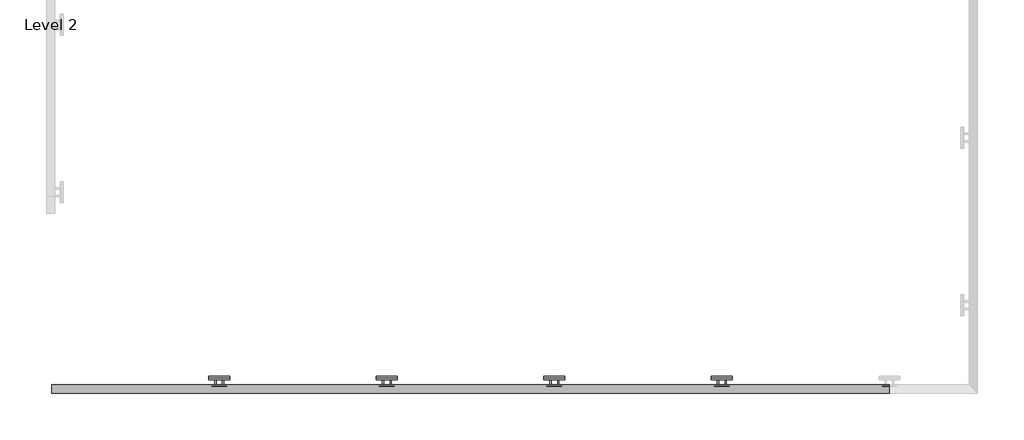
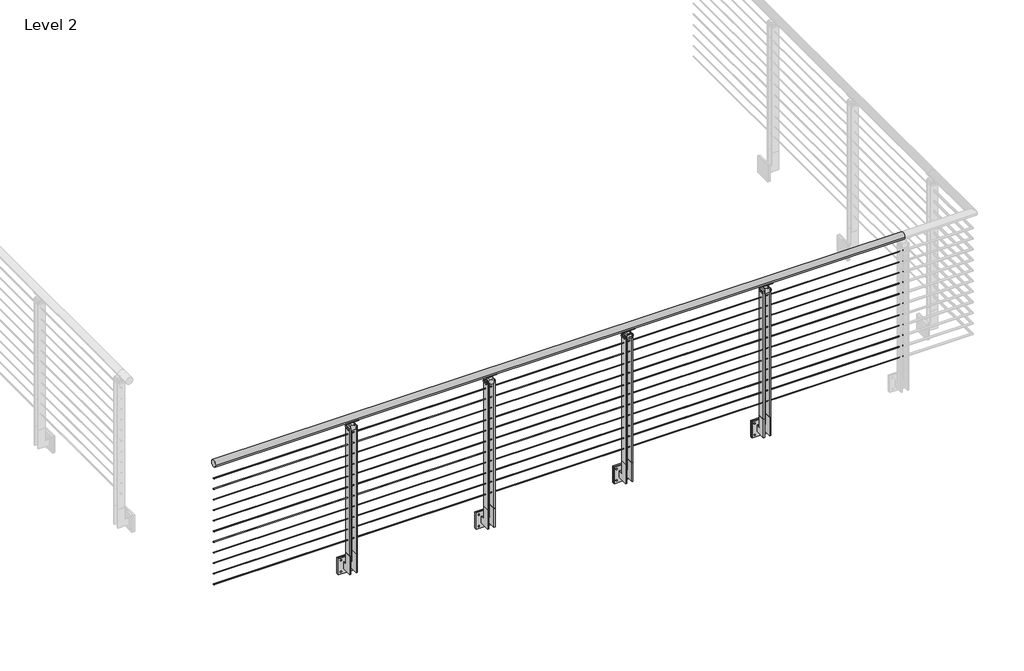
# One storey, part 6 of 31: 1 railing.
"""IFC4 building model written with IfcOpenShell, lengths in millimetres."""

from ifc_helpers import new_model, si_unit, point, frame, frame_2d, origin, place, context, project, spatial, polyline, circle_curve, trimmed, segment, composite_curve, outline, extrude, element, save
from ifc_brep_helpers import plane_surface, cylinder_surface, revolved_surface, advanced_brep

model = new_model("IFC4")

# Units and contexts
model_context = context("Model", 3, world=origin())
ifc_project = project(units=[si_unit("LENGTHUNIT", "METRE", prefix="MILLI")], contexts=[model_context])

# Site, building, storey
site = spatial("IfcSite", under=ifc_project)
building = spatial("IfcBuilding", under=site)
storey = spatial("IfcBuildingStorey", under=building, Name="Level 2", Elevation=3048.0)

# Railing
placement = place(None, origin())
element("IfcRailing", 1, ObjectType="VIVA-BLADE-Cable-Fascia Mount-Straight", at=placement, inside=storey, context=model_context, shape_type="SolidModel", body=[
    extrude(outline(composite_curve([segment(trimmed(circle_curve(frame_2d((-52320.6428223, 4102.1)), 25.4), [point((-52346.0428223, 4102.1))], [point((-52295.2428223, 4102.1))], False, "CARTESIAN"), True, "CONTINUOUS"), segment(trimmed(circle_curve(frame_2d((-52320.6428223, 4102.1)), 25.4), [point((-52295.2428223, 4102.1))], [point((-52346.0428223, 4102.1))], False, "CARTESIAN"), True, "CONTINUOUS")], self_intersect=False)), frame((-9233.9664794, 0.0, 0.0), z_axis=(1.0, 0.0, 0.0), x_axis=(0.0, 1.0, 0.0)), (0.0, 0.0, 1.0), 5080.0),
    extrude(outline(composite_curve([segment(trimmed(circle_curve(frame_2d((-52320.6428223, 3985.4124)), 2.3876), [point((-52318.2552223, 3985.4124))], [point((-52323.0304223, 3985.4124))], False, "CARTESIAN"), True, "CONTINUOUS"), segment(trimmed(circle_curve(frame_2d((-52320.6428223, 3985.4124)), 2.3876), [point((-52323.0304223, 3985.4124))], [point((-52318.2552223, 3985.4124))], False, "CARTESIAN"), True, "CONTINUOUS")], self_intersect=False)), frame((-9233.9664794, 0.0, 0.0), z_axis=(1.0, 0.0, 0.0), x_axis=(0.0, 1.0, 0.0)), (0.0, 0.0, 1.0), 5080.0),
    extrude(outline(composite_curve([segment(trimmed(circle_curve(frame_2d((-52320.6428223, 3902.8624)), 2.3876), [point((-52318.2552223, 3902.8624))], [point((-52323.0304223, 3902.8624))], False, "CARTESIAN"), True, "CONTINUOUS"), segment(trimmed(circle_curve(frame_2d((-52320.6428223, 3902.8624)), 2.3876), [point((-52323.0304223, 3902.8624))], [point((-52318.2552223, 3902.8624))], False, "CARTESIAN"), True, "CONTINUOUS")], self_intersect=False)), frame((-9233.9664794, 0.0, 0.0), z_axis=(1.0, 0.0, 0.0), x_axis=(0.0, 1.0, 0.0)), (0.0, 0.0, 1.0), 5080.0),
    extrude(outline(composite_curve([segment(trimmed(circle_curve(frame_2d((-52320.6428223, 3820.3124)), 2.3876), [point((-52318.2552223, 3820.3124))], [point((-52323.0304223, 3820.3124))], False, "CARTESIAN"), True, "CONTINUOUS"), segment(trimmed(circle_curve(frame_2d((-52320.6428223, 3820.3124)), 2.3876), [point((-52323.0304223, 3820.3124))], [point((-52318.2552223, 3820.3124))], False, "CARTESIAN"), True, "CONTINUOUS")], self_intersect=False)), frame((-9233.9664794, 0.0, 0.0), z_axis=(1.0, 0.0, 0.0), x_axis=(0.0, 1.0, 0.0)), (0.0, 0.0, 1.0), 5080.0),
    extrude(outline(composite_curve([segment(trimmed(circle_curve(frame_2d((-52320.6428223, 3737.7624)), 2.3876), [point((-52318.2552223, 3737.7624))], [point((-52323.0304223, 3737.7624))], False, "CARTESIAN"), True, "CONTINUOUS"), segment(trimmed(circle_curve(frame_2d((-52320.6428223, 3737.7624)), 2.3876), [point((-52323.0304223, 3737.7624))], [point((-52318.2552223, 3737.7624))], False, "CARTESIAN"), True, "CONTINUOUS")], self_intersect=False)), frame((-9233.9664794, 0.0, 0.0), z_axis=(1.0, 0.0, 0.0), x_axis=(0.0, 1.0, 0.0)), (0.0, 0.0, 1.0), 5080.0),
    extrude(outline(composite_curve([segment(trimmed(circle_curve(frame_2d((-52320.6428223, 3655.2124)), 2.3876), [point((-52318.2552223, 3655.2124))], [point((-52323.0304223, 3655.2124))], False, "CARTESIAN"), True, "CONTINUOUS"), segment(trimmed(circle_curve(frame_2d((-52320.6428223, 3655.2124)), 2.3876), [point((-52323.0304223, 3655.2124))], [point((-52318.2552223, 3655.2124))], False, "CARTESIAN"), True, "CONTINUOUS")], self_intersect=False)), frame((-9233.9664794, 0.0, 0.0), z_axis=(1.0, 0.0, 0.0), x_axis=(0.0, 1.0, 0.0)), (0.0, 0.0, 1.0), 5080.0),
    extrude(outline(composite_curve([segment(trimmed(circle_curve(frame_2d((-52320.6428223, 3572.6624)), 2.3876), [point((-52318.2552223, 3572.6624))], [point((-52323.0304223, 3572.6624))], False, "CARTESIAN"), True, "CONTINUOUS"), segment(trimmed(circle_curve(frame_2d((-52320.6428223, 3572.6624)), 2.3876), [point((-52323.0304223, 3572.6624))], [point((-52318.2552223, 3572.6624))], False, "CARTESIAN"), True, "CONTINUOUS")], self_intersect=False)), frame((-9233.9664794, 0.0, 0.0), z_axis=(1.0, 0.0, 0.0), x_axis=(0.0, 1.0, 0.0)), (0.0, 0.0, 1.0), 5080.0),
    extrude(outline(composite_curve([segment(trimmed(circle_curve(frame_2d((-52320.6428223, 3490.1124)), 2.3876), [point((-52318.2552223, 3490.1124))], [point((-52323.0304223, 3490.1124))], False, "CARTESIAN"), True, "CONTINUOUS"), segment(trimmed(circle_curve(frame_2d((-52320.6428223, 3490.1124)), 2.3876), [point((-52323.0304223, 3490.1124))], [point((-52318.2552223, 3490.1124))], False, "CARTESIAN"), True, "CONTINUOUS")], self_intersect=False)), frame((-9233.9664794, 0.0, 0.0), z_axis=(1.0, 0.0, 0.0), x_axis=(0.0, 1.0, 0.0)), (0.0, 0.0, 1.0), 5080.0),
    extrude(outline(composite_curve([segment(trimmed(circle_curve(frame_2d((-52320.6428223, 3407.5624)), 2.3876), [point((-52318.2552223, 3407.5624))], [point((-52323.0304223, 3407.5624))], False, "CARTESIAN"), True, "CONTINUOUS"), segment(trimmed(circle_curve(frame_2d((-52320.6428223, 3407.5624)), 2.3876), [point((-52323.0304223, 3407.5624))], [point((-52318.2552223, 3407.5624))], False, "CARTESIAN"), True, "CONTINUOUS")], self_intersect=False)), frame((-9233.9664794, 0.0, 0.0), z_axis=(1.0, 0.0, 0.0), x_axis=(0.0, 1.0, 0.0)), (0.0, 0.0, 1.0), 5080.0),
    extrude(outline(composite_curve([segment(trimmed(circle_curve(frame_2d((-52320.6428223, 3325.0124)), 2.3876), [point((-52318.2552223, 3325.0124))], [point((-52323.0304223, 3325.0124))], False, "CARTESIAN"), True, "CONTINUOUS"), segment(trimmed(circle_curve(frame_2d((-52320.6428223, 3325.0124)), 2.3876), [point((-52323.0304223, 3325.0124))], [point((-52318.2552223, 3325.0124))], False, "CARTESIAN"), True, "CONTINUOUS")], self_intersect=False)), frame((-9233.9664794, 0.0, 0.0), z_axis=(1.0, 0.0, 0.0), x_axis=(0.0, 1.0, 0.0)), (0.0, 0.0, 1.0), 5080.0),
    extrude(outline(composite_curve([segment(trimmed(circle_curve(frame_2d((-52320.6428223, 3242.4624)), 2.3876), [point((-52318.2552223, 3242.4624))], [point((-52323.0304223, 3242.4624))], False, "CARTESIAN"), True, "CONTINUOUS"), segment(trimmed(circle_curve(frame_2d((-52320.6428223, 3242.4624)), 2.3876), [point((-52323.0304223, 3242.4624))], [point((-52318.2552223, 3242.4624))], False, "CARTESIAN"), True, "CONTINUOUS")], self_intersect=False)), frame((-9233.9664794, 0.0, 0.0), z_axis=(1.0, 0.0, 0.0), x_axis=(0.0, 1.0, 0.0)), (0.0, 0.0, 1.0), 5080.0),
    extrude(outline(composite_curve([segment(trimmed(circle_curve(frame_2d((-52320.6428223, 3159.9124)), 2.3876), [point((-52318.2552223, 3159.9124))], [point((-52323.0304223, 3159.9124))], False, "CARTESIAN"), True, "CONTINUOUS"), segment(trimmed(circle_curve(frame_2d((-52320.6428223, 3159.9124)), 2.3876), [point((-52323.0304223, 3159.9124))], [point((-52318.2552223, 3159.9124))], False, "CARTESIAN"), True, "CONTINUOUS")], self_intersect=False)), frame((-9233.9664794, 0.0, 0.0), z_axis=(1.0, 0.0, 0.0), x_axis=(0.0, 1.0, 0.0)), (0.0, 0.0, 1.0), 5080.0),
    extrude(outline(polyline([(-52346.0453502, 2901.95), (-52346.0453502, 3048.0), (-52295.2453502, 3048.0), (-52295.2453502, 2952.75), (-52263.4926165, 2952.75), (-52263.4926165, 2901.95), (-52346.0453502, 2901.95)])), frame((-5197.0413151, 0.0, 0.0), z_axis=(1.0, 0.0, 0.0), x_axis=(0.0, 1.0, 0.0)), (0.0, 0.0, 1.0), 8.0248357),
    extrude(outline(polyline([(-52295.2453502, 3048.0), (-52295.2453502, 2952.75), (-52263.4926165, 2952.75), (-52263.4926165, 2901.95), (-52346.0453502, 2901.95), (-52346.0453502, 3048.0), (-52295.2453502, 3048.0)])), frame((-5150.9165174, 0.0, 0.0), z_axis=(1.0, 0.0, 0.0), x_axis=(0.0, 1.0, 0.0)), (0.0, 0.0, 1.0), 8.001),
    advanced_brep(
    [(-5124.7290794, -52307.8826986, 4080.0967655), (-5124.7290794, -52332.7547632, 4079.9535285), (-5124.7290794, -52335.5636935, 4075.1267745), (-5124.7290794, -52304.0468012, 4075.707533), (-5215.2038794, -52307.8826986, 4080.0967655), (-5215.2038794, -52304.0468012, 4075.707533), (-5215.2038794, -52335.6774869, 4075.1893964), (-5215.2038794, -52332.8417353, 4080.0018447)],
    [
        (0, 1, circle_curve(frame((-5124.7290794, -52320.4465015, 4102.2115898), z_axis=(-1.0, 0.0, 0.0), x_axis=(0.0, 1.0, 0.0)), 25.4345159)),
        (1, 2, circle_curve(frame((-5124.7290794, -52334.0863884, 4077.4993599), z_axis=(1.0, 0.0, 0.0), x_axis=(0.0, 1.0, 0.0)), 2.7949225)),
        (2, 3, circle_curve(frame((-5124.7290794, -52320.3130385, 4102.9742164), z_axis=(1.0, 0.0, 0.0), x_axis=(0.0, 1.0, 0.0)), 31.75)),
        (3, 0, circle_curve(frame((-5124.7290794, -52306.335141, 4077.5784521), z_axis=(1.0, 0.0, 0.0), x_axis=(0.0, 1.0, 0.0)), 2.9558141)),
        (4, 5, circle_curve(frame((-5215.2038794, -52306.335141, 4077.5784521), z_axis=(-1.0, 0.0, 0.0), x_axis=(0.0, 1.0, 0.0)), 2.9558141)),
        (5, 6, circle_curve(frame((-5215.2038794, -52320.3130385, 4102.9742164), z_axis=(-1.0, 0.0, 0.0), x_axis=(0.0, 1.0, 0.0)), 31.75)),
        (6, 7, circle_curve(frame((-5215.2038794, -52334.0863884, 4077.4993599), z_axis=(-1.0, 0.0, 0.0), x_axis=(0.0, 1.0, 0.0)), 2.7949225)),
        (7, 4, circle_curve(frame((-5215.2038794, -52320.4465015, 4102.2115898), z_axis=(1.0, 0.0, 0.0), x_axis=(0.0, 1.0, 0.0)), 25.4345159)),
        (0, 4),
        (7, 1),
        (6, 2),
        (5, 3),
    ],
    [
        plane_surface(frame((-5124.7290794, -52295.0119857, 4102.2115898), z_axis=(1.0, 0.0, 0.0), x_axis=(0.0, 0.0, -1.0))),
        plane_surface(frame((-5215.2038794, -52295.0119857, 4102.2115898), z_axis=(-1.0, 0.0, 0.0), x_axis=(0.0, 0.0, 1.0))),
        revolved_surface(polyline([(-5215.2038794, -52295.0119856, 4102.2115898), (-5124.7290794, -52295.0119856, 4102.2115898)]), (-5215.2038794, -52320.4465015, 4102.2115898), (-1.0, 0.0, 0.0)),
        cylinder_surface(frame((-5215.2038794, -52334.0863884, 4077.4993599), z_axis=(1.0, 0.0, 0.0), x_axis=(0.0, 1.0, 0.0)), 2.7949225),
        cylinder_surface(frame((-5215.2038794, -52320.3130385, 4102.9742164), z_axis=(1.0, 0.0, 0.0), x_axis=(0.0, 1.0, 0.0)), 31.75),
        cylinder_surface(frame((-5215.2038794, -52306.335141, 4077.5784521), z_axis=(1.0, 0.0, 0.0), x_axis=(0.0, 1.0, 0.0)), 2.9558141),
    ],
    [
        (0, [[1, 2, 3, 4]]),
        (1, [[5, 6, 7, 8]]),
        (2, [[-1, 9, -8, 10]]),
        (3, [[-2, -10, -7, 11]]),
        (4, [[-3, -11, -6, 12]]),
        (5, [[-4, -12, -5, -9]]),
    ],
),
    extrude(outline(polyline([(-5106.4784162, -52244.4426165), (-5106.4784162, -52253.9676165), (-5233.4784162, -52253.9676165), (-5233.4784162, -52244.4426165), (-5106.4784162, -52244.4426165)])), frame((0.0, 0.0, 2863.85), z_axis=(0.0, 0.0, 1.0), x_axis=(1.0, 0.0, 0.0)), (0.0, 0.0, 1.0), 127.0),
    extrude(outline(composite_curve([segment(trimmed(circle_curve(frame_2d((4062.4125, -5142.8985645)), 14.3679149), [point((4062.4125, -5157.2664794))], [point((4076.7804149, -5142.8985645))], True, "CARTESIAN"), True, "CONTINUOUS"), segment(polyline([(4076.7804149, -5142.8985645), (4076.7804149, -5197.0343942)]), True, "CONTINUOUS"), segment(trimmed(circle_curve(frame_2d((4062.4125, -5197.0343942)), 14.3679149), [point((4076.7804149, -5197.0343942))], [point((4062.4125, -5182.6664794))], True, "CARTESIAN"), True, "CONTINUOUS"), segment(polyline([(4062.4125, -5182.6664794), (4062.4125, -5157.2664794)]), True, "CONTINUOUS")], self_intersect=False)), frame((0.0, -52323.1828223, 0.0), z_axis=(0.0, 1.0, 0.0), x_axis=(0.0, 0.0, 1.0)), (0.0, 0.0, 1.0), 5.08),
    extrude(outline(polyline([(-5197.0413151, -52295.2430256), (-5189.0164794, -52295.2430256), (-5189.0164794, -52346.0453502), (-5197.0413151, -52346.0453502), (-5197.0413151, -52295.2430256)])), frame((0.0, 0.0, 3048.0), z_axis=(0.0, 0.0, 1.0), x_axis=(1.0, 0.0, 0.0)), (0.0, 0.0, 1.0), 996.95),
    extrude(outline(polyline([(2863.85, -5233.4784162), (2863.85, -5106.4784162), (2990.85, -5106.4784162), (2990.85, -5233.4784162), (2863.85, -5233.4784162)]), holes=[composite_curve([segment(trimmed(circle_curve(frame_2d((2971.8, -5214.4284162)), 4.7068371), [point((2971.8, -5209.7215791))], [point((2971.8, -5219.1352533))], True, "CARTESIAN"), True, "CONTINUOUS"), segment(trimmed(circle_curve(frame_2d((2971.8, -5214.4284162)), 4.7068371), [point((2971.8, -5219.1352533))], [point((2971.8, -5209.7215791))], True, "CARTESIAN"), True, "CONTINUOUS")], self_intersect=False), composite_curve([segment(trimmed(circle_curve(frame_2d((2971.8, -5125.5284162)), 4.7068371), [point((2971.8, -5120.8215791))], [point((2971.8, -5130.2352533))], True, "CARTESIAN"), True, "CONTINUOUS"), segment(trimmed(circle_curve(frame_2d((2971.8, -5125.5284162)), 4.7068371), [point((2971.8, -5130.2352533))], [point((2971.8, -5120.8215791))], True, "CARTESIAN"), True, "CONTINUOUS")], self_intersect=False), composite_curve([segment(trimmed(circle_curve(frame_2d((2882.9, -5125.5284162)), 4.7068371), [point((2882.9, -5120.8215791))], [point((2882.9, -5130.2352533))], True, "CARTESIAN"), True, "CONTINUOUS"), segment(trimmed(circle_curve(frame_2d((2882.9, -5125.5284162)), 4.7068371), [point((2882.9, -5130.2352533))], [point((2882.9, -5120.8215791))], True, "CARTESIAN"), True, "CONTINUOUS")], self_intersect=False), composite_curve([segment(trimmed(circle_curve(frame_2d((2882.9, -5214.4284162)), 4.7068371), [point((2882.9, -5209.7215791))], [point((2882.9, -5219.1352533))], True, "CARTESIAN"), True, "CONTINUOUS"), segment(trimmed(circle_curve(frame_2d((2882.9, -5214.4284162)), 4.7068371), [point((2882.9, -5219.1352533))], [point((2882.9, -5209.7215791))], True, "CARTESIAN"), True, "CONTINUOUS")], self_intersect=False)]), frame((0.0, -52263.4926165, 0.0), z_axis=(0.0, 1.0, 0.0), x_axis=(0.0, 0.0, 1.0)), (0.0, 0.0, 1.0), 9.525),
    extrude(outline(composite_curve([segment(trimmed(circle_curve(frame_2d((-52333.3452992, 4034.0416929)), 8.89), [point((-52342.2352992, 4034.0416929))], [point((-52324.4552992, 4034.0416929))], False, "CARTESIAN"), True, "CONTINUOUS"), segment(trimmed(circle_curve(frame_2d((-52333.3452992, 4034.0416929)), 8.89), [point((-52324.4552992, 4034.0416929))], [point((-52342.2352992, 4034.0416929))], False, "CARTESIAN"), True, "CONTINUOUS")], self_intersect=False)), frame((-5201.7164794, 0.0, 0.0), z_axis=(1.0, 0.0, 0.0), x_axis=(0.0, 1.0, 0.0)), (0.0, 0.0, 1.0), 63.4880631),
    extrude(outline(composite_curve([segment(trimmed(circle_curve(frame_2d((-52307.9454012, 4034.0416929)), 8.89), [point((-52316.8354012, 4034.0416929))], [point((-52299.0554012, 4034.0416929))], False, "CARTESIAN"), True, "CONTINUOUS"), segment(trimmed(circle_curve(frame_2d((-52307.9454012, 4034.0416929)), 8.89), [point((-52299.0554012, 4034.0416929))], [point((-52316.8354012, 4034.0416929))], False, "CARTESIAN"), True, "CONTINUOUS")], self_intersect=False)), frame((-5201.7164794, 0.0, 0.0), z_axis=(1.0, 0.0, 0.0), x_axis=(0.0, 1.0, 0.0)), (0.0, 0.0, 1.0), 63.4880631),
    extrude(outline(polyline([(4022.7123, -5189.0164794), (4022.7123, -5150.9164794), (4056.0625, -5150.9164794), (4062.4125, -5157.2664794), (4062.4125, -5182.6664794), (4056.0625, -5189.0164794), (4022.7123, -5189.0164794)])), frame((0.0, -52346.0453502, 0.0), z_axis=(0.0, 1.0, 0.0), x_axis=(0.0, 0.0, 1.0)), (0.0, 0.0, 1.0), 50.8025279),
    extrude(outline(polyline([(-5150.9165174, -52295.2430256), (-5142.9155174, -52295.2430256), (-5142.9155174, -52346.0453502), (-5150.9165174, -52346.0453502), (-5150.9165174, -52295.2430256)])), frame((0.0, 0.0, 3048.0), z_axis=(0.0, 0.0, 1.0), x_axis=(1.0, 0.0, 0.0)), (0.0, 0.0, 1.0), 996.95),
    extrude(outline(polyline([(-52346.0453502, 2901.95), (-52346.0453502, 3048.0), (-52295.2453502, 3048.0), (-52295.2453502, 2952.75), (-52263.4926165, 2952.75), (-52263.4926165, 2901.95), (-52346.0453502, 2901.95)])), frame((-6213.0413151, 0.0, 0.0), z_axis=(1.0, 0.0, 0.0), x_axis=(0.0, 1.0, 0.0)), (0.0, 0.0, 1.0), 8.0248357),
    extrude(outline(polyline([(-52295.2453502, 3048.0), (-52295.2453502, 2952.75), (-52263.4926165, 2952.75), (-52263.4926165, 2901.95), (-52346.0453502, 2901.95), (-52346.0453502, 3048.0), (-52295.2453502, 3048.0)])), frame((-6166.9165174, 0.0, 0.0), z_axis=(1.0, 0.0, 0.0), x_axis=(0.0, 1.0, 0.0)), (0.0, 0.0, 1.0), 8.001),
    advanced_brep(
    [(-6140.7290794, -52307.8826986, 4080.0967655), (-6140.7290794, -52332.7547632, 4079.9535285), (-6140.7290794, -52335.5636935, 4075.1267745), (-6140.7290794, -52304.0468012, 4075.707533), (-6231.2038794, -52307.8826986, 4080.0967655), (-6231.2038794, -52304.0468012, 4075.707533), (-6231.2038794, -52335.6774869, 4075.1893964), (-6231.2038794, -52332.8417353, 4080.0018447)],
    [
        (0, 1, circle_curve(frame((-6140.7290794, -52320.4465015, 4102.2115898), z_axis=(-1.0, 0.0, 0.0), x_axis=(0.0, 1.0, 0.0)), 25.4345159)),
        (1, 2, circle_curve(frame((-6140.7290794, -52334.0863884, 4077.4993599), z_axis=(1.0, 0.0, 0.0), x_axis=(0.0, 1.0, 0.0)), 2.7949225)),
        (2, 3, circle_curve(frame((-6140.7290794, -52320.3130385, 4102.9742164), z_axis=(1.0, 0.0, 0.0), x_axis=(0.0, 1.0, 0.0)), 31.75)),
        (3, 0, circle_curve(frame((-6140.7290794, -52306.335141, 4077.5784521), z_axis=(1.0, 0.0, 0.0), x_axis=(0.0, 1.0, 0.0)), 2.9558141)),
        (4, 5, circle_curve(frame((-6231.2038794, -52306.335141, 4077.5784521), z_axis=(-1.0, 0.0, 0.0), x_axis=(0.0, 1.0, 0.0)), 2.9558141)),
        (5, 6, circle_curve(frame((-6231.2038794, -52320.3130385, 4102.9742164), z_axis=(-1.0, 0.0, 0.0), x_axis=(0.0, 1.0, 0.0)), 31.75)),
        (6, 7, circle_curve(frame((-6231.2038794, -52334.0863884, 4077.4993599), z_axis=(-1.0, 0.0, 0.0), x_axis=(0.0, 1.0, 0.0)), 2.7949225)),
        (7, 4, circle_curve(frame((-6231.2038794, -52320.4465015, 4102.2115898), z_axis=(1.0, 0.0, 0.0), x_axis=(0.0, 1.0, 0.0)), 25.4345159)),
        (0, 4),
        (7, 1),
        (6, 2),
        (5, 3),
    ],
    [
        plane_surface(frame((-6140.7290794, -52295.0119857, 4102.2115898), z_axis=(1.0, 0.0, 0.0), x_axis=(0.0, 0.0, -1.0))),
        plane_surface(frame((-6231.2038794, -52295.0119857, 4102.2115898), z_axis=(-1.0, 0.0, 0.0), x_axis=(0.0, 0.0, 1.0))),
        revolved_surface(polyline([(-6231.2038794, -52295.0119856, 4102.2115898), (-6140.7290794, -52295.0119856, 4102.2115898)]), (-6231.2038794, -52320.4465015, 4102.2115898), (-1.0, 0.0, 0.0)),
        cylinder_surface(frame((-6231.2038794, -52334.0863884, 4077.4993599), z_axis=(1.0, 0.0, 0.0), x_axis=(0.0, 1.0, 0.0)), 2.7949225),
        cylinder_surface(frame((-6231.2038794, -52320.3130385, 4102.9742164), z_axis=(1.0, 0.0, 0.0), x_axis=(0.0, 1.0, 0.0)), 31.75),
        cylinder_surface(frame((-6231.2038794, -52306.335141, 4077.5784521), z_axis=(1.0, 0.0, 0.0), x_axis=(0.0, 1.0, 0.0)), 2.9558141),
    ],
    [
        (0, [[1, 2, 3, 4]]),
        (1, [[5, 6, 7, 8]]),
        (2, [[-1, 9, -8, 10]]),
        (3, [[-2, -10, -7, 11]]),
        (4, [[-3, -11, -6, 12]]),
        (5, [[-4, -12, -5, -9]]),
    ],
),
    extrude(outline(polyline([(-6122.4784162, -52244.4426165), (-6122.4784162, -52253.9676165), (-6249.4784162, -52253.9676165), (-6249.4784162, -52244.4426165), (-6122.4784162, -52244.4426165)])), frame((0.0, 0.0, 2863.85), z_axis=(0.0, 0.0, 1.0), x_axis=(1.0, 0.0, 0.0)), (0.0, 0.0, 1.0), 127.0),
    extrude(outline(composite_curve([segment(trimmed(circle_curve(frame_2d((4062.4125, -6158.8985645)), 14.3679149), [point((4062.4125, -6173.2664794))], [point((4076.7804149, -6158.8985645))], True, "CARTESIAN"), True, "CONTINUOUS"), segment(polyline([(4076.7804149, -6158.8985645), (4076.7804149, -6213.0343942)]), True, "CONTINUOUS"), segment(trimmed(circle_curve(frame_2d((4062.4125, -6213.0343942)), 14.3679149), [point((4076.7804149, -6213.0343942))], [point((4062.4125, -6198.6664794))], True, "CARTESIAN"), True, "CONTINUOUS"), segment(polyline([(4062.4125, -6198.6664794), (4062.4125, -6173.2664794)]), True, "CONTINUOUS")], self_intersect=False)), frame((0.0, -52323.1828223, 0.0), z_axis=(0.0, 1.0, 0.0), x_axis=(0.0, 0.0, 1.0)), (0.0, 0.0, 1.0), 5.08),
    extrude(outline(polyline([(-6213.0413151, -52295.2430256), (-6205.0164794, -52295.2430256), (-6205.0164794, -52346.0453502), (-6213.0413151, -52346.0453502), (-6213.0413151, -52295.2430256)])), frame((0.0, 0.0, 3048.0), z_axis=(0.0, 0.0, 1.0), x_axis=(1.0, 0.0, 0.0)), (0.0, 0.0, 1.0), 996.95),
    extrude(outline(polyline([(2863.85, -6249.4784162), (2863.85, -6122.4784162), (2990.85, -6122.4784162), (2990.85, -6249.4784162), (2863.85, -6249.4784162)]), holes=[composite_curve([segment(trimmed(circle_curve(frame_2d((2971.8, -6230.4284162)), 4.7068371), [point((2971.8, -6225.7215791))], [point((2971.8, -6235.1352533))], True, "CARTESIAN"), True, "CONTINUOUS"), segment(trimmed(circle_curve(frame_2d((2971.8, -6230.4284162)), 4.7068371), [point((2971.8, -6235.1352533))], [point((2971.8, -6225.7215791))], True, "CARTESIAN"), True, "CONTINUOUS")], self_intersect=False), composite_curve([segment(trimmed(circle_curve(frame_2d((2971.8, -6141.5284162)), 4.7068371), [point((2971.8, -6136.8215791))], [point((2971.8, -6146.2352533))], True, "CARTESIAN"), True, "CONTINUOUS"), segment(trimmed(circle_curve(frame_2d((2971.8, -6141.5284162)), 4.7068371), [point((2971.8, -6146.2352533))], [point((2971.8, -6136.8215791))], True, "CARTESIAN"), True, "CONTINUOUS")], self_intersect=False), composite_curve([segment(trimmed(circle_curve(frame_2d((2882.9, -6141.5284162)), 4.7068371), [point((2882.9, -6136.8215791))], [point((2882.9, -6146.2352533))], True, "CARTESIAN"), True, "CONTINUOUS"), segment(trimmed(circle_curve(frame_2d((2882.9, -6141.5284162)), 4.7068371), [point((2882.9, -6146.2352533))], [point((2882.9, -6136.8215791))], True, "CARTESIAN"), True, "CONTINUOUS")], self_intersect=False), composite_curve([segment(trimmed(circle_curve(frame_2d((2882.9, -6230.4284162)), 4.7068371), [point((2882.9, -6225.7215791))], [point((2882.9, -6235.1352533))], True, "CARTESIAN"), True, "CONTINUOUS"), segment(trimmed(circle_curve(frame_2d((2882.9, -6230.4284162)), 4.7068371), [point((2882.9, -6235.1352533))], [point((2882.9, -6225.7215791))], True, "CARTESIAN"), True, "CONTINUOUS")], self_intersect=False)]), frame((0.0, -52263.4926165, 0.0), z_axis=(0.0, 1.0, 0.0), x_axis=(0.0, 0.0, 1.0)), (0.0, 0.0, 1.0), 9.525),
    extrude(outline(composite_curve([segment(trimmed(circle_curve(frame_2d((-52333.3452992, 4034.0416929)), 8.89), [point((-52342.2352992, 4034.0416929))], [point((-52324.4552992, 4034.0416929))], False, "CARTESIAN"), True, "CONTINUOUS"), segment(trimmed(circle_curve(frame_2d((-52333.3452992, 4034.0416929)), 8.89), [point((-52324.4552992, 4034.0416929))], [point((-52342.2352992, 4034.0416929))], False, "CARTESIAN"), True, "CONTINUOUS")], self_intersect=False)), frame((-6217.7164794, 0.0, 0.0), z_axis=(1.0, 0.0, 0.0), x_axis=(0.0, 1.0, 0.0)), (0.0, 0.0, 1.0), 63.4880631),
    extrude(outline(composite_curve([segment(trimmed(circle_curve(frame_2d((-52307.9454012, 4034.0416929)), 8.89), [point((-52316.8354012, 4034.0416929))], [point((-52299.0554012, 4034.0416929))], False, "CARTESIAN"), True, "CONTINUOUS"), segment(trimmed(circle_curve(frame_2d((-52307.9454012, 4034.0416929)), 8.89), [point((-52299.0554012, 4034.0416929))], [point((-52316.8354012, 4034.0416929))], False, "CARTESIAN"), True, "CONTINUOUS")], self_intersect=False)), frame((-6217.7164794, 0.0, 0.0), z_axis=(1.0, 0.0, 0.0), x_axis=(0.0, 1.0, 0.0)), (0.0, 0.0, 1.0), 63.4880631),
    extrude(outline(polyline([(4022.7123, -6205.0164794), (4022.7123, -6166.9164794), (4056.0625, -6166.9164794), (4062.4125, -6173.2664794), (4062.4125, -6198.6664794), (4056.0625, -6205.0164794), (4022.7123, -6205.0164794)])), frame((0.0, -52346.0453502, 0.0), z_axis=(0.0, 1.0, 0.0), x_axis=(0.0, 0.0, 1.0)), (0.0, 0.0, 1.0), 50.8025279),
    extrude(outline(polyline([(-6166.9165174, -52295.2430256), (-6158.9155174, -52295.2430256), (-6158.9155174, -52346.0453502), (-6166.9165174, -52346.0453502), (-6166.9165174, -52295.2430256)])), frame((0.0, 0.0, 3048.0), z_axis=(0.0, 0.0, 1.0), x_axis=(1.0, 0.0, 0.0)), (0.0, 0.0, 1.0), 996.95),
    extrude(outline(polyline([(-52346.0453502, 2901.95), (-52346.0453502, 3048.0), (-52295.2453502, 3048.0), (-52295.2453502, 2952.75), (-52263.4926165, 2952.75), (-52263.4926165, 2901.95), (-52346.0453502, 2901.95)])), frame((-7229.0413151, 0.0, 0.0), z_axis=(1.0, 0.0, 0.0), x_axis=(0.0, 1.0, 0.0)), (0.0, 0.0, 1.0), 8.0248357),
    extrude(outline(polyline([(-52295.2453502, 3048.0), (-52295.2453502, 2952.75), (-52263.4926165, 2952.75), (-52263.4926165, 2901.95), (-52346.0453502, 2901.95), (-52346.0453502, 3048.0), (-52295.2453502, 3048.0)])), frame((-7182.9165174, 0.0, 0.0), z_axis=(1.0, 0.0, 0.0), x_axis=(0.0, 1.0, 0.0)), (0.0, 0.0, 1.0), 8.001),
    advanced_brep(
    [(-7156.7290794, -52307.8826986, 4080.0967655), (-7156.7290794, -52332.7547632, 4079.9535285), (-7156.7290794, -52335.5636935, 4075.1267745), (-7156.7290794, -52304.0468012, 4075.707533), (-7247.2038794, -52307.8826986, 4080.0967655), (-7247.2038794, -52304.0468012, 4075.707533), (-7247.2038794, -52335.6774869, 4075.1893964), (-7247.2038794, -52332.8417353, 4080.0018447)],
    [
        (0, 1, circle_curve(frame((-7156.7290794, -52320.4465015, 4102.2115898), z_axis=(-1.0, 0.0, 0.0), x_axis=(0.0, 1.0, 0.0)), 25.4345159)),
        (1, 2, circle_curve(frame((-7156.7290794, -52334.0863884, 4077.4993599), z_axis=(1.0, 0.0, 0.0), x_axis=(0.0, 1.0, 0.0)), 2.7949225)),
        (2, 3, circle_curve(frame((-7156.7290794, -52320.3130385, 4102.9742164), z_axis=(1.0, 0.0, 0.0), x_axis=(0.0, 1.0, 0.0)), 31.75)),
        (3, 0, circle_curve(frame((-7156.7290794, -52306.335141, 4077.5784521), z_axis=(1.0, 0.0, 0.0), x_axis=(0.0, 1.0, 0.0)), 2.9558141)),
        (4, 5, circle_curve(frame((-7247.2038794, -52306.335141, 4077.5784521), z_axis=(-1.0, 0.0, 0.0), x_axis=(0.0, 1.0, 0.0)), 2.9558141)),
        (5, 6, circle_curve(frame((-7247.2038794, -52320.3130385, 4102.9742164), z_axis=(-1.0, 0.0, 0.0), x_axis=(0.0, 1.0, 0.0)), 31.75)),
        (6, 7, circle_curve(frame((-7247.2038794, -52334.0863884, 4077.4993599), z_axis=(-1.0, 0.0, 0.0), x_axis=(0.0, 1.0, 0.0)), 2.7949225)),
        (7, 4, circle_curve(frame((-7247.2038794, -52320.4465015, 4102.2115898), z_axis=(1.0, 0.0, 0.0), x_axis=(0.0, 1.0, 0.0)), 25.4345159)),
        (0, 4),
        (7, 1),
        (6, 2),
        (5, 3),
    ],
    [
        plane_surface(frame((-7156.7290794, -52295.0119857, 4102.2115898), z_axis=(1.0, 0.0, 0.0), x_axis=(0.0, 0.0, -1.0))),
        plane_surface(frame((-7247.2038794, -52295.0119857, 4102.2115898), z_axis=(-1.0, 0.0, 0.0), x_axis=(0.0, 0.0, 1.0))),
        revolved_surface(polyline([(-7247.2038794, -52295.0119856, 4102.2115898), (-7156.7290794, -52295.0119856, 4102.2115898)]), (-7247.2038794, -52320.4465015, 4102.2115898), (-1.0, 0.0, 0.0)),
        cylinder_surface(frame((-7247.2038794, -52334.0863884, 4077.4993599), z_axis=(1.0, 0.0, 0.0), x_axis=(0.0, 1.0, 0.0)), 2.7949225),
        cylinder_surface(frame((-7247.2038794, -52320.3130385, 4102.9742164), z_axis=(1.0, 0.0, 0.0), x_axis=(0.0, 1.0, 0.0)), 31.75),
        cylinder_surface(frame((-7247.2038794, -52306.335141, 4077.5784521), z_axis=(1.0, 0.0, 0.0), x_axis=(0.0, 1.0, 0.0)), 2.9558141),
    ],
    [
        (0, [[1, 2, 3, 4]]),
        (1, [[5, 6, 7, 8]]),
        (2, [[-1, 9, -8, 10]]),
        (3, [[-2, -10, -7, 11]]),
        (4, [[-3, -11, -6, 12]]),
        (5, [[-4, -12, -5, -9]]),
    ],
),
    extrude(outline(polyline([(-7138.4784162, -52244.4426165), (-7138.4784162, -52253.9676165), (-7265.4784162, -52253.9676165), (-7265.4784162, -52244.4426165), (-7138.4784162, -52244.4426165)])), frame((0.0, 0.0, 2863.85), z_axis=(0.0, 0.0, 1.0), x_axis=(1.0, 0.0, 0.0)), (0.0, 0.0, 1.0), 127.0),
    extrude(outline(composite_curve([segment(trimmed(circle_curve(frame_2d((4062.4125, -7174.8985645)), 14.3679149), [point((4062.4125, -7189.2664794))], [point((4076.7804149, -7174.8985645))], True, "CARTESIAN"), True, "CONTINUOUS"), segment(polyline([(4076.7804149, -7174.8985645), (4076.7804149, -7229.0343942)]), True, "CONTINUOUS"), segment(trimmed(circle_curve(frame_2d((4062.4125, -7229.0343942)), 14.3679149), [point((4076.7804149, -7229.0343942))], [point((4062.4125, -7214.6664794))], True, "CARTESIAN"), True, "CONTINUOUS"), segment(polyline([(4062.4125, -7214.6664794), (4062.4125, -7189.2664794)]), True, "CONTINUOUS")], self_intersect=False)), frame((0.0, -52323.1828223, 0.0), z_axis=(0.0, 1.0, 0.0), x_axis=(0.0, 0.0, 1.0)), (0.0, 0.0, 1.0), 5.08),
    extrude(outline(polyline([(-7229.0413151, -52295.2430256), (-7221.0164794, -52295.2430256), (-7221.0164794, -52346.0453502), (-7229.0413151, -52346.0453502), (-7229.0413151, -52295.2430256)])), frame((0.0, 0.0, 3048.0), z_axis=(0.0, 0.0, 1.0), x_axis=(1.0, 0.0, 0.0)), (0.0, 0.0, 1.0), 996.95),
    extrude(outline(polyline([(2863.85, -7265.4784162), (2863.85, -7138.4784162), (2990.85, -7138.4784162), (2990.85, -7265.4784162), (2863.85, -7265.4784162)]), holes=[composite_curve([segment(trimmed(circle_curve(frame_2d((2971.8, -7246.4284162)), 4.7068371), [point((2971.8, -7241.7215791))], [point((2971.8, -7251.1352533))], True, "CARTESIAN"), True, "CONTINUOUS"), segment(trimmed(circle_curve(frame_2d((2971.8, -7246.4284162)), 4.7068371), [point((2971.8, -7251.1352533))], [point((2971.8, -7241.7215791))], True, "CARTESIAN"), True, "CONTINUOUS")], self_intersect=False), composite_curve([segment(trimmed(circle_curve(frame_2d((2971.8, -7157.5284162)), 4.7068371), [point((2971.8, -7152.8215791))], [point((2971.8, -7162.2352533))], True, "CARTESIAN"), True, "CONTINUOUS"), segment(trimmed(circle_curve(frame_2d((2971.8, -7157.5284162)), 4.7068371), [point((2971.8, -7162.2352533))], [point((2971.8, -7152.8215791))], True, "CARTESIAN"), True, "CONTINUOUS")], self_intersect=False), composite_curve([segment(trimmed(circle_curve(frame_2d((2882.9, -7157.5284162)), 4.7068371), [point((2882.9, -7152.8215791))], [point((2882.9, -7162.2352533))], True, "CARTESIAN"), True, "CONTINUOUS"), segment(trimmed(circle_curve(frame_2d((2882.9, -7157.5284162)), 4.7068371), [point((2882.9, -7162.2352533))], [point((2882.9, -7152.8215791))], True, "CARTESIAN"), True, "CONTINUOUS")], self_intersect=False), composite_curve([segment(trimmed(circle_curve(frame_2d((2882.9, -7246.4284162)), 4.7068371), [point((2882.9, -7241.7215791))], [point((2882.9, -7251.1352533))], True, "CARTESIAN"), True, "CONTINUOUS"), segment(trimmed(circle_curve(frame_2d((2882.9, -7246.4284162)), 4.7068371), [point((2882.9, -7251.1352533))], [point((2882.9, -7241.7215791))], True, "CARTESIAN"), True, "CONTINUOUS")], self_intersect=False)]), frame((0.0, -52263.4926165, 0.0), z_axis=(0.0, 1.0, 0.0), x_axis=(0.0, 0.0, 1.0)), (0.0, 0.0, 1.0), 9.525),
    extrude(outline(composite_curve([segment(trimmed(circle_curve(frame_2d((-52333.3452992, 4034.0416929)), 8.89), [point((-52342.2352992, 4034.0416929))], [point((-52324.4552992, 4034.0416929))], False, "CARTESIAN"), True, "CONTINUOUS"), segment(trimmed(circle_curve(frame_2d((-52333.3452992, 4034.0416929)), 8.89), [point((-52324.4552992, 4034.0416929))], [point((-52342.2352992, 4034.0416929))], False, "CARTESIAN"), True, "CONTINUOUS")], self_intersect=False)), frame((-7233.7164794, 0.0, 0.0), z_axis=(1.0, 0.0, 0.0), x_axis=(0.0, 1.0, 0.0)), (0.0, 0.0, 1.0), 63.4880631),
    extrude(outline(composite_curve([segment(trimmed(circle_curve(frame_2d((-52307.9454012, 4034.0416929)), 8.89), [point((-52316.8354012, 4034.0416929))], [point((-52299.0554012, 4034.0416929))], False, "CARTESIAN"), True, "CONTINUOUS"), segment(trimmed(circle_curve(frame_2d((-52307.9454012, 4034.0416929)), 8.89), [point((-52299.0554012, 4034.0416929))], [point((-52316.8354012, 4034.0416929))], False, "CARTESIAN"), True, "CONTINUOUS")], self_intersect=False)), frame((-7233.7164794, 0.0, 0.0), z_axis=(1.0, 0.0, 0.0), x_axis=(0.0, 1.0, 0.0)), (0.0, 0.0, 1.0), 63.4880631),
    extrude(outline(polyline([(4022.7123, -7221.0164794), (4022.7123, -7182.9164794), (4056.0625, -7182.9164794), (4062.4125, -7189.2664794), (4062.4125, -7214.6664794), (4056.0625, -7221.0164794), (4022.7123, -7221.0164794)])), frame((0.0, -52346.0453502, 0.0), z_axis=(0.0, 1.0, 0.0), x_axis=(0.0, 0.0, 1.0)), (0.0, 0.0, 1.0), 50.8025279),
    extrude(outline(polyline([(-7182.9165174, -52295.2430256), (-7174.9155174, -52295.2430256), (-7174.9155174, -52346.0453502), (-7182.9165174, -52346.0453502), (-7182.9165174, -52295.2430256)])), frame((0.0, 0.0, 3048.0), z_axis=(0.0, 0.0, 1.0), x_axis=(1.0, 0.0, 0.0)), (0.0, 0.0, 1.0), 996.95),
    extrude(outline(polyline([(-52346.0453502, 2901.95), (-52346.0453502, 3048.0), (-52295.2453502, 3048.0), (-52295.2453502, 2952.75), (-52263.4926165, 2952.75), (-52263.4926165, 2901.95), (-52346.0453502, 2901.95)])), frame((-8245.0413151, 0.0, 0.0), z_axis=(1.0, 0.0, 0.0), x_axis=(0.0, 1.0, 0.0)), (0.0, 0.0, 1.0), 8.0248357),
    extrude(outline(polyline([(-52295.2453502, 3048.0), (-52295.2453502, 2952.75), (-52263.4926165, 2952.75), (-52263.4926165, 2901.95), (-52346.0453502, 2901.95), (-52346.0453502, 3048.0), (-52295.2453502, 3048.0)])), frame((-8198.9165174, 0.0, 0.0), z_axis=(1.0, 0.0, 0.0), x_axis=(0.0, 1.0, 0.0)), (0.0, 0.0, 1.0), 8.001),
    advanced_brep(
    [(-8172.7290794, -52307.8826986, 4080.0967655), (-8172.7290794, -52332.7547632, 4079.9535285), (-8172.7290794, -52335.5636935, 4075.1267745), (-8172.7290794, -52304.0468012, 4075.707533), (-8263.2038794, -52307.8826986, 4080.0967655), (-8263.2038794, -52304.0468012, 4075.707533), (-8263.2038794, -52335.6774869, 4075.1893964), (-8263.2038794, -52332.8417353, 4080.0018447)],
    [
        (0, 1, circle_curve(frame((-8172.7290794, -52320.4465015, 4102.2115898), z_axis=(-1.0, 0.0, 0.0), x_axis=(0.0, 1.0, 0.0)), 25.4345159)),
        (1, 2, circle_curve(frame((-8172.7290794, -52334.0863884, 4077.4993599), z_axis=(1.0, 0.0, 0.0), x_axis=(0.0, 1.0, 0.0)), 2.7949225)),
        (2, 3, circle_curve(frame((-8172.7290794, -52320.3130385, 4102.9742164), z_axis=(1.0, 0.0, 0.0), x_axis=(0.0, 1.0, 0.0)), 31.75)),
        (3, 0, circle_curve(frame((-8172.7290794, -52306.335141, 4077.5784521), z_axis=(1.0, 0.0, 0.0), x_axis=(0.0, 1.0, 0.0)), 2.9558141)),
        (4, 5, circle_curve(frame((-8263.2038794, -52306.335141, 4077.5784521), z_axis=(-1.0, 0.0, 0.0), x_axis=(0.0, 1.0, 0.0)), 2.9558141)),
        (5, 6, circle_curve(frame((-8263.2038794, -52320.3130385, 4102.9742164), z_axis=(-1.0, 0.0, 0.0), x_axis=(0.0, 1.0, 0.0)), 31.75)),
        (6, 7, circle_curve(frame((-8263.2038794, -52334.0863884, 4077.4993599), z_axis=(-1.0, 0.0, 0.0), x_axis=(0.0, 1.0, 0.0)), 2.7949225)),
        (7, 4, circle_curve(frame((-8263.2038794, -52320.4465015, 4102.2115898), z_axis=(1.0, 0.0, 0.0), x_axis=(0.0, 1.0, 0.0)), 25.4345159)),
        (0, 4),
        (7, 1),
        (6, 2),
        (5, 3),
    ],
    [
        plane_surface(frame((-8172.7290794, -52295.0119857, 4102.2115898), z_axis=(1.0, 0.0, 0.0), x_axis=(0.0, 0.0, -1.0))),
        plane_surface(frame((-8263.2038794, -52295.0119857, 4102.2115898), z_axis=(-1.0, 0.0, 0.0), x_axis=(0.0, 0.0, 1.0))),
        revolved_surface(polyline([(-8263.2038794, -52295.0119856, 4102.2115898), (-8172.7290794, -52295.0119856, 4102.2115898)]), (-8263.2038794, -52320.4465015, 4102.2115898), (-1.0, 0.0, 0.0)),
        cylinder_surface(frame((-8263.2038794, -52334.0863884, 4077.4993599), z_axis=(1.0, 0.0, 0.0), x_axis=(0.0, 1.0, 0.0)), 2.7949225),
        cylinder_surface(frame((-8263.2038794, -52320.3130385, 4102.9742164), z_axis=(1.0, 0.0, 0.0), x_axis=(0.0, 1.0, 0.0)), 31.75),
        cylinder_surface(frame((-8263.2038794, -52306.335141, 4077.5784521), z_axis=(1.0, 0.0, 0.0), x_axis=(0.0, 1.0, 0.0)), 2.9558141),
    ],
    [
        (0, [[1, 2, 3, 4]]),
        (1, [[5, 6, 7, 8]]),
        (2, [[-1, 9, -8, 10]]),
        (3, [[-2, -10, -7, 11]]),
        (4, [[-3, -11, -6, 12]]),
        (5, [[-4, -12, -5, -9]]),
    ],
),
    extrude(outline(polyline([(-8154.4784162, -52244.4426165), (-8154.4784162, -52253.9676165), (-8281.4784162, -52253.9676165), (-8281.4784162, -52244.4426165), (-8154.4784162, -52244.4426165)])), frame((0.0, 0.0, 2863.85), z_axis=(0.0, 0.0, 1.0), x_axis=(1.0, 0.0, 0.0)), (0.0, 0.0, 1.0), 127.0),
    extrude(outline(composite_curve([segment(trimmed(circle_curve(frame_2d((4062.4125, -8190.8985645)), 14.3679149), [point((4062.4125, -8205.2664794))], [point((4076.7804149, -8190.8985645))], True, "CARTESIAN"), True, "CONTINUOUS"), segment(polyline([(4076.7804149, -8190.8985645), (4076.7804149, -8245.0343942)]), True, "CONTINUOUS"), segment(trimmed(circle_curve(frame_2d((4062.4125, -8245.0343942)), 14.3679149), [point((4076.7804149, -8245.0343942))], [point((4062.4125, -8230.6664794))], True, "CARTESIAN"), True, "CONTINUOUS"), segment(polyline([(4062.4125, -8230.6664794), (4062.4125, -8205.2664794)]), True, "CONTINUOUS")], self_intersect=False)), frame((0.0, -52323.1828223, 0.0), z_axis=(0.0, 1.0, 0.0), x_axis=(0.0, 0.0, 1.0)), (0.0, 0.0, 1.0), 5.08),
    extrude(outline(polyline([(-8245.0413151, -52295.2430256), (-8237.0164794, -52295.2430256), (-8237.0164794, -52346.0453502), (-8245.0413151, -52346.0453502), (-8245.0413151, -52295.2430256)])), frame((0.0, 0.0, 3048.0), z_axis=(0.0, 0.0, 1.0), x_axis=(1.0, 0.0, 0.0)), (0.0, 0.0, 1.0), 996.95),
    extrude(outline(polyline([(2863.85, -8281.4784162), (2863.85, -8154.4784162), (2990.85, -8154.4784162), (2990.85, -8281.4784162), (2863.85, -8281.4784162)]), holes=[composite_curve([segment(trimmed(circle_curve(frame_2d((2971.8, -8262.4284162)), 4.7068371), [point((2971.8, -8257.7215791))], [point((2971.8, -8267.1352533))], True, "CARTESIAN"), True, "CONTINUOUS"), segment(trimmed(circle_curve(frame_2d((2971.8, -8262.4284162)), 4.7068371), [point((2971.8, -8267.1352533))], [point((2971.8, -8257.7215791))], True, "CARTESIAN"), True, "CONTINUOUS")], self_intersect=False), composite_curve([segment(trimmed(circle_curve(frame_2d((2971.8, -8173.5284162)), 4.7068371), [point((2971.8, -8168.8215791))], [point((2971.8, -8178.2352533))], True, "CARTESIAN"), True, "CONTINUOUS"), segment(trimmed(circle_curve(frame_2d((2971.8, -8173.5284162)), 4.7068371), [point((2971.8, -8178.2352533))], [point((2971.8, -8168.8215791))], True, "CARTESIAN"), True, "CONTINUOUS")], self_intersect=False), composite_curve([segment(trimmed(circle_curve(frame_2d((2882.9, -8173.5284162)), 4.7068371), [point((2882.9, -8168.8215791))], [point((2882.9, -8178.2352533))], True, "CARTESIAN"), True, "CONTINUOUS"), segment(trimmed(circle_curve(frame_2d((2882.9, -8173.5284162)), 4.7068371), [point((2882.9, -8178.2352533))], [point((2882.9, -8168.8215791))], True, "CARTESIAN"), True, "CONTINUOUS")], self_intersect=False), composite_curve([segment(trimmed(circle_curve(frame_2d((2882.9, -8262.4284162)), 4.7068371), [point((2882.9, -8257.7215791))], [point((2882.9, -8267.1352533))], True, "CARTESIAN"), True, "CONTINUOUS"), segment(trimmed(circle_curve(frame_2d((2882.9, -8262.4284162)), 4.7068371), [point((2882.9, -8267.1352533))], [point((2882.9, -8257.7215791))], True, "CARTESIAN"), True, "CONTINUOUS")], self_intersect=False)]), frame((0.0, -52263.4926165, 0.0), z_axis=(0.0, 1.0, 0.0), x_axis=(0.0, 0.0, 1.0)), (0.0, 0.0, 1.0), 9.525),
    extrude(outline(composite_curve([segment(trimmed(circle_curve(frame_2d((-52333.3452992, 4034.0416929)), 8.89), [point((-52342.2352992, 4034.0416929))], [point((-52324.4552992, 4034.0416929))], False, "CARTESIAN"), True, "CONTINUOUS"), segment(trimmed(circle_curve(frame_2d((-52333.3452992, 4034.0416929)), 8.89), [point((-52324.4552992, 4034.0416929))], [point((-52342.2352992, 4034.0416929))], False, "CARTESIAN"), True, "CONTINUOUS")], self_intersect=False)), frame((-8249.7164794, 0.0, 0.0), z_axis=(1.0, 0.0, 0.0), x_axis=(0.0, 1.0, 0.0)), (0.0, 0.0, 1.0), 63.4880631),
    extrude(outline(composite_curve([segment(trimmed(circle_curve(frame_2d((-52307.9454012, 4034.0416929)), 8.89), [point((-52316.8354012, 4034.0416929))], [point((-52299.0554012, 4034.0416929))], False, "CARTESIAN"), True, "CONTINUOUS"), segment(trimmed(circle_curve(frame_2d((-52307.9454012, 4034.0416929)), 8.89), [point((-52299.0554012, 4034.0416929))], [point((-52316.8354012, 4034.0416929))], False, "CARTESIAN"), True, "CONTINUOUS")], self_intersect=False)), frame((-8249.7164794, 0.0, 0.0), z_axis=(1.0, 0.0, 0.0), x_axis=(0.0, 1.0, 0.0)), (0.0, 0.0, 1.0), 63.4880631),
    extrude(outline(polyline([(4022.7123, -8237.0164794), (4022.7123, -8198.9164794), (4056.0625, -8198.9164794), (4062.4125, -8205.2664794), (4062.4125, -8230.6664794), (4056.0625, -8237.0164794), (4022.7123, -8237.0164794)])), frame((0.0, -52346.0453502, 0.0), z_axis=(0.0, 1.0, 0.0), x_axis=(0.0, 0.0, 1.0)), (0.0, 0.0, 1.0), 50.8025279),
    extrude(outline(polyline([(-8198.9165174, -52295.2430256), (-8190.9155174, -52295.2430256), (-8190.9155174, -52346.0453502), (-8198.9165174, -52346.0453502), (-8198.9165174, -52295.2430256)])), frame((0.0, 0.0, 3048.0), z_axis=(0.0, 0.0, 1.0), x_axis=(1.0, 0.0, 0.0)), (0.0, 0.0, 1.0), 996.95),
])

save(model, "model.ifc")
